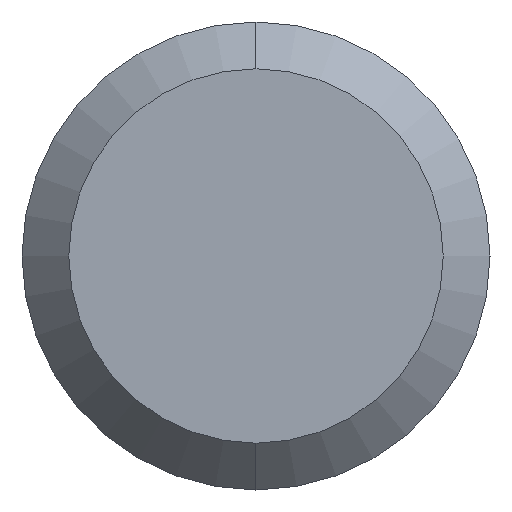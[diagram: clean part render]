
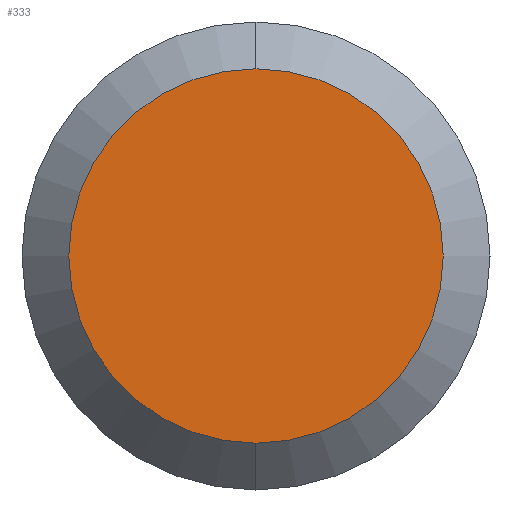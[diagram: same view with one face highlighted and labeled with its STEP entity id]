
A CAD part, left-side view. The second image highlights one B-rep face of the part: STEP entity #333.
In plain terms, the highlighted planar face has unit normal (-1, 0, 0).
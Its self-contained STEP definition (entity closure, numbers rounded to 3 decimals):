
#7 = EDGE_LOOP ( 'NONE', ( #348, #269 ) ) ;
#53 = DIRECTION ( 'NONE',  ( -1., 0., 0. ) ) ;
#94 = CIRCLE ( 'NONE', #188, 1.6 ) ;
#111 = VERTEX_POINT ( 'NONE', #367 ) ;
#130 = CIRCLE ( 'NONE', #356, 1.6 ) ;
#135 = DIRECTION ( 'NONE',  ( 0., 0., -1. ) ) ;
#139 = PLANE ( 'NONE',  #346 ) ;
#188 = AXIS2_PLACEMENT_3D ( 'NONE', #235, #53, #339 ) ;
#203 = CARTESIAN_POINT ( 'NONE',  ( 0., 0., 0. ) ) ;
#211 = EDGE_CURVE ( 'NONE', #399, #111, #94, .T. ) ;
#220 = EDGE_CURVE ( 'NONE', #111, #399, #130, .T. ) ;
#235 = CARTESIAN_POINT ( 'NONE',  ( 0., 0., 0. ) ) ;
#269 = ORIENTED_EDGE ( 'NONE', *, *, #211, .T. ) ;
#333 = ADVANCED_FACE ( 'NONE', ( #368 ), #139, .F. ) ;
#339 = DIRECTION ( 'NONE',  ( 0., 0., 1. ) ) ;
#344 = DIRECTION ( 'NONE',  ( -1., 0., 0. ) ) ;
#346 = AXIS2_PLACEMENT_3D ( 'NONE', #385, #453, #135 ) ;
#348 = ORIENTED_EDGE ( 'NONE', *, *, #220, .T. ) ;
#356 = AXIS2_PLACEMENT_3D ( 'NONE', #203, #344, #436 ) ;
#367 = CARTESIAN_POINT ( 'NONE',  ( 0., 0., -1.6 ) ) ;
#368 = FACE_OUTER_BOUND ( 'NONE', #7, .T. ) ;
#385 = CARTESIAN_POINT ( 'NONE',  ( 0., 1.6, 0. ) ) ;
#399 = VERTEX_POINT ( 'NONE', #418 ) ;
#418 = CARTESIAN_POINT ( 'NONE',  ( 0., 0., 1.6 ) ) ;
#436 = DIRECTION ( 'NONE',  ( 0., 0., 1. ) ) ;
#453 = DIRECTION ( 'NONE',  ( 1., 0., 0. ) ) ;
